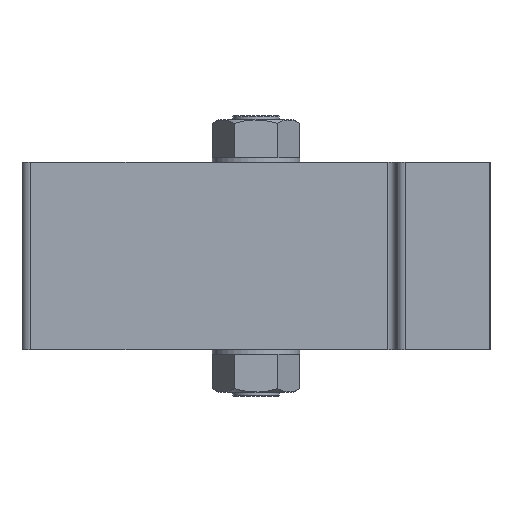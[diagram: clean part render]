
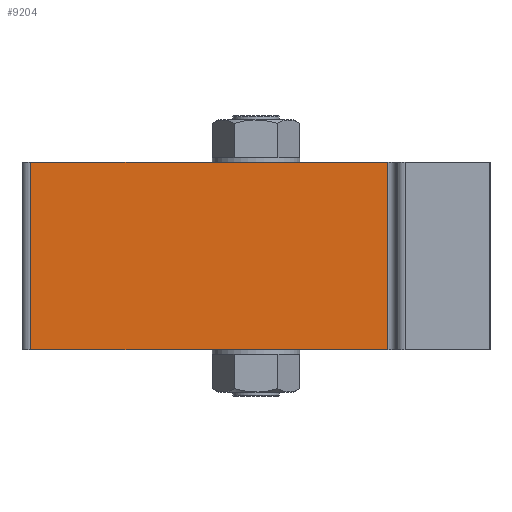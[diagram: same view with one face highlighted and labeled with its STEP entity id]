
A CAD part, left-side view. The second image highlights one B-rep face of the part: STEP entity #9204.
In plain terms, the highlighted planar face has unit normal (-1, 0, 0).
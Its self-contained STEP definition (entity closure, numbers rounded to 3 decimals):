
#7049=CARTESIAN_POINT('',(-40.,38.5,32.0));
#7050=VERTEX_POINT('',#7049);
#7058=CARTESIAN_POINT('',(-40.0,-22.5,32.0));
#7059=VERTEX_POINT('',#7058);
#7060=CARTESIAN_POINT('',(-40.0,-22.5,32.0));
#7061=DIRECTION('',(0.0,1.0,0.0));
#7062=VECTOR('',#7061,61.0);
#7063=LINE('',#7060,#7062);
#7064=EDGE_CURVE('',#7059,#7050,#7063,.T.);
#9162=CARTESIAN_POINT('',(-40.0,-22.5,0.0));
#9163=VERTEX_POINT('',#9162);
#9164=CARTESIAN_POINT('',(-40.0,-22.5,0.0));
#9165=DIRECTION('',(0.0,0.0,1.0));
#9166=VECTOR('',#9165,32.0);
#9167=LINE('',#9164,#9166);
#9168=EDGE_CURVE('',#9163,#7059,#9167,.T.);
#9181=CARTESIAN_POINT('',(-40.0,-22.5,0.0));
#9182=DIRECTION('',(-1.0,0.0,0.0));
#9183=DIRECTION('',(0.0,0.0,1.0));
#9184=AXIS2_PLACEMENT_3D('',#9181,#9182,#9183);
#9185=PLANE('',#9184);
#9186=ORIENTED_EDGE('',*,*,#7064,.T.);
#9187=CARTESIAN_POINT('',(-40.,38.5,0.0));
#9188=VERTEX_POINT('',#9187);
#9189=CARTESIAN_POINT('',(-40.,38.5,0.0));
#9190=DIRECTION('',(0.0,0.0,1.0));
#9191=VECTOR('',#9190,32.0);
#9192=LINE('',#9189,#9191);
#9193=EDGE_CURVE('',#9188,#7050,#9192,.T.);
#9194=ORIENTED_EDGE('',*,*,#9193,.F.);
#9195=CARTESIAN_POINT('',(-40.0,-22.5,0.0));
#9196=DIRECTION('',(0.0,1.0,0.0));
#9197=VECTOR('',#9196,61.0);
#9198=LINE('',#9195,#9197);
#9199=EDGE_CURVE('',#9163,#9188,#9198,.T.);
#9200=ORIENTED_EDGE('',*,*,#9199,.F.);
#9201=ORIENTED_EDGE('',*,*,#9168,.T.);
#9202=EDGE_LOOP('',(#9186,#9194,#9200,#9201));
#9203=FACE_OUTER_BOUND('',#9202,.T.);
#9204=ADVANCED_FACE('',(#9203),#9185,.T.);
